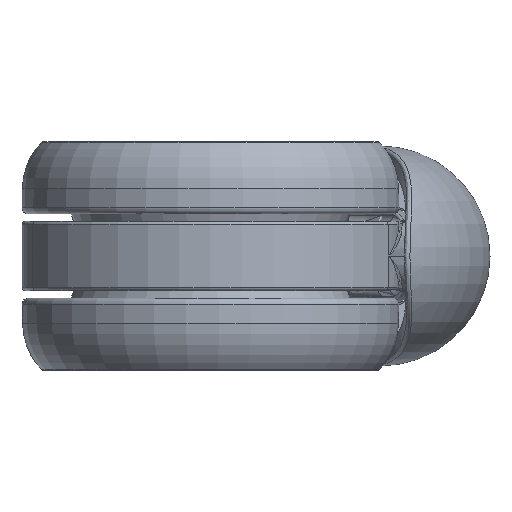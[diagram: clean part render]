
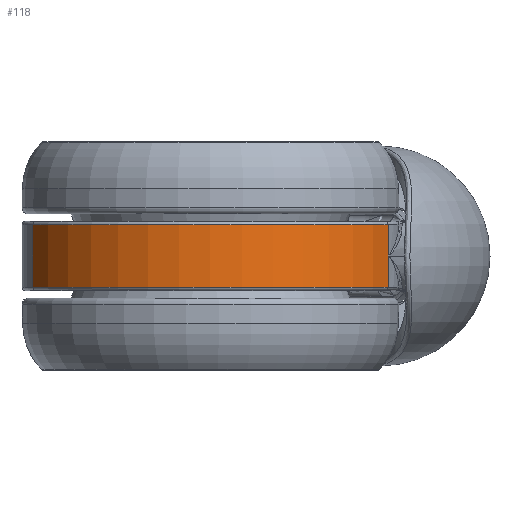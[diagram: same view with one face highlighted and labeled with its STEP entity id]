
A CAD part, front view. The second image highlights one B-rep face of the part: STEP entity #118.
In plain terms, the highlighted cylindrical face has radius 30.924 mm (diameter 61.847 mm), a partial arc.
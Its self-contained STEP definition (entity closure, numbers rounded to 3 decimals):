
#33 = CARTESIAN_POINT ( 'NONE',  ( -28.273, -8.602, -5. ) ) ;
#118 = ADVANCED_FACE ( 'NONE', ( #24226 ), #18429, .T. ) ;
#185 = AXIS2_PLACEMENT_3D ( 'NONE', #9999, #23898, #22282 ) ;
#501 = CARTESIAN_POINT ( 'NONE',  ( 28.273, -8.602, 12.5 ) ) ;
#1241 = ORIENTED_EDGE ( 'NONE', *, *, #19582, .T. ) ;
#1979 = ORIENTED_EDGE ( 'NONE', *, *, #3731, .T. ) ;
#2115 = CARTESIAN_POINT ( 'NONE',  ( -28.273, -8.602, 12.5 ) ) ;
#2829 = CARTESIAN_POINT ( 'NONE',  ( 28.273, -8.602, -5. ) ) ;
#3731 = EDGE_CURVE ( 'NONE', #24555, #23331, #22863, .T. ) ;
#3938 = AXIS2_PLACEMENT_3D ( 'NONE', #8668, #25133, #20955 ) ;
#6064 = EDGE_LOOP ( 'NONE', ( #1241, #1979, #26486, #16635 ) ) ;
#6199 = VERTEX_POINT ( 'NONE', #12959 ) ;
#6461 = AXIS2_PLACEMENT_3D ( 'NONE', #20326, #24766, #26253 ) ;
#6970 = EDGE_CURVE ( 'NONE', #23331, #17989, #22628, .T. ) ;
#8668 = CARTESIAN_POINT ( 'NONE',  ( 0., 3.924, -5. ) ) ;
#9649 = EDGE_CURVE ( 'NONE', #17989, #6199, #19515, .T. ) ;
#9999 = CARTESIAN_POINT ( 'NONE',  ( 0., 3.924, 5. ) ) ;
#10376 = CARTESIAN_POINT ( 'NONE',  ( 28.273, -8.602, 5. ) ) ;
#10872 = DIRECTION ( 'NONE',  ( 0., 0., 1. ) ) ;
#12959 = CARTESIAN_POINT ( 'NONE',  ( -28.273, -8.602, 5. ) ) ;
#16635 = ORIENTED_EDGE ( 'NONE', *, *, #9649, .T. ) ;
#17989 = VERTEX_POINT ( 'NONE', #10376 ) ;
#18429 = CYLINDRICAL_SURFACE ( 'NONE', #6461, 30.924 ) ;
#19515 = CIRCLE ( 'NONE', #185, 30.924 ) ;
#19582 = EDGE_CURVE ( 'NONE', #6199, #24555, #20567, .T. ) ;
#20210 = VECTOR ( 'NONE', #10872, 1000. ) ;
#20326 = CARTESIAN_POINT ( 'NONE',  ( 0., 3.924, 12.5 ) ) ;
#20567 = LINE ( 'NONE', #2115, #24046 ) ;
#20955 = DIRECTION ( 'NONE',  ( -1., 0., 0. ) ) ;
#22282 = DIRECTION ( 'NONE',  ( 1., 0., 0. ) ) ;
#22329 = DIRECTION ( 'NONE',  ( 0., 0., -1. ) ) ;
#22628 = LINE ( 'NONE', #501, #20210 ) ;
#22863 = CIRCLE ( 'NONE', #3938, 30.924 ) ;
#23331 = VERTEX_POINT ( 'NONE', #2829 ) ;
#23898 = DIRECTION ( 'NONE',  ( 0., 0., -1. ) ) ;
#24046 = VECTOR ( 'NONE', #22329, 1000. ) ;
#24226 = FACE_OUTER_BOUND ( 'NONE', #6064, .T. ) ;
#24555 = VERTEX_POINT ( 'NONE', #33 ) ;
#24766 = DIRECTION ( 'NONE',  ( 0., 0., -1. ) ) ;
#25133 = DIRECTION ( 'NONE',  ( 0., 0., 1. ) ) ;
#26253 = DIRECTION ( 'NONE',  ( -1., 0., 0. ) ) ;
#26486 = ORIENTED_EDGE ( 'NONE', *, *, #6970, .T. ) ;
